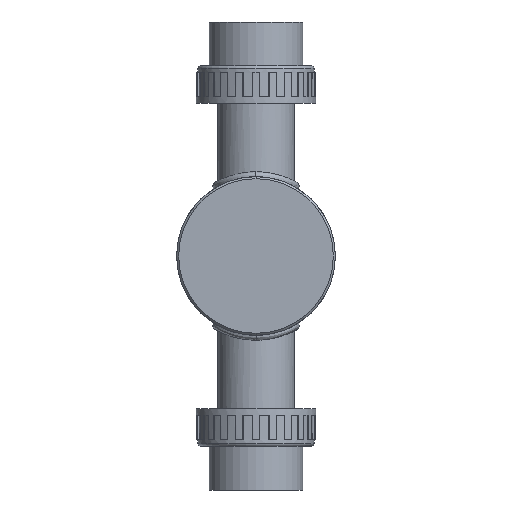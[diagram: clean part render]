
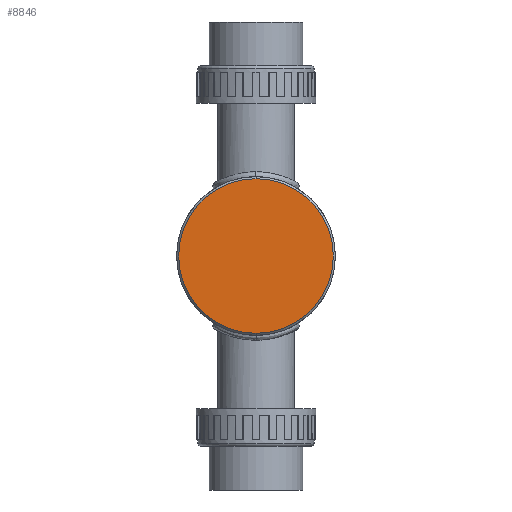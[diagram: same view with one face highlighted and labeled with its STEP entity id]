
A CAD part, front view. The second image highlights one B-rep face of the part: STEP entity #8846.
In plain terms, the highlighted planar face has unit normal (0, -1, 0).
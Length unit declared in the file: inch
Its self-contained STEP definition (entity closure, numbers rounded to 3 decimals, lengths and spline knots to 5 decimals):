
#303 = CIRCLE ( 'NONE', #14418, 2.388 ) ;
#590 = CARTESIAN_POINT ( 'NONE',  ( 0., 0., -2.388 ) ) ;
#2102 = DIRECTION ( 'NONE',  ( 0., -1., 0. ) ) ;
#2682 = CARTESIAN_POINT ( 'NONE',  ( 0., 0., 0. ) ) ;
#2701 = AXIS2_PLACEMENT_3D ( 'NONE', #10141, #2102, #11478 ) ;
#4040 = DIRECTION ( 'NONE',  ( 0., 0., 1. ) ) ;
#5663 = PLANE ( 'NONE',  #6129 ) ;
#5723 = CARTESIAN_POINT ( 'NONE',  ( 0., 0., 2.388 ) ) ;
#6129 = AXIS2_PLACEMENT_3D ( 'NONE', #15012, #7000, #16381 ) ;
#7000 = DIRECTION ( 'NONE',  ( 0., 1., 0. ) ) ;
#7215 = EDGE_CURVE ( 'NONE', #11289, #11780, #303, .T. ) ;
#7583 = FACE_OUTER_BOUND ( 'NONE', #9867, .T. ) ;
#8780 = ORIENTED_EDGE ( 'NONE', *, *, #7215, .T. ) ;
#8846 = ADVANCED_FACE ( 'NONE', ( #7583 ), #5663, .F. ) ;
#9215 = ORIENTED_EDGE ( 'NONE', *, *, #12149, .T. ) ;
#9867 = EDGE_LOOP ( 'NONE', ( #9215, #8780 ) ) ;
#10141 = CARTESIAN_POINT ( 'NONE',  ( 0., 0., 0. ) ) ;
#11289 = VERTEX_POINT ( 'NONE', #590 ) ;
#11478 = DIRECTION ( 'NONE',  ( 0., 0., 1. ) ) ;
#11780 = VERTEX_POINT ( 'NONE', #5723 ) ;
#12059 = DIRECTION ( 'NONE',  ( 0., -1., 0. ) ) ;
#12149 = EDGE_CURVE ( 'NONE', #11780, #11289, #14205, .T. ) ;
#14205 = CIRCLE ( 'NONE', #2701, 2.388 ) ;
#14418 = AXIS2_PLACEMENT_3D ( 'NONE', #2682, #12059, #4040 ) ;
#15012 = CARTESIAN_POINT ( 'NONE',  ( 0., 0., 0. ) ) ;
#16381 = DIRECTION ( 'NONE',  ( 0., 0., 1. ) ) ;
